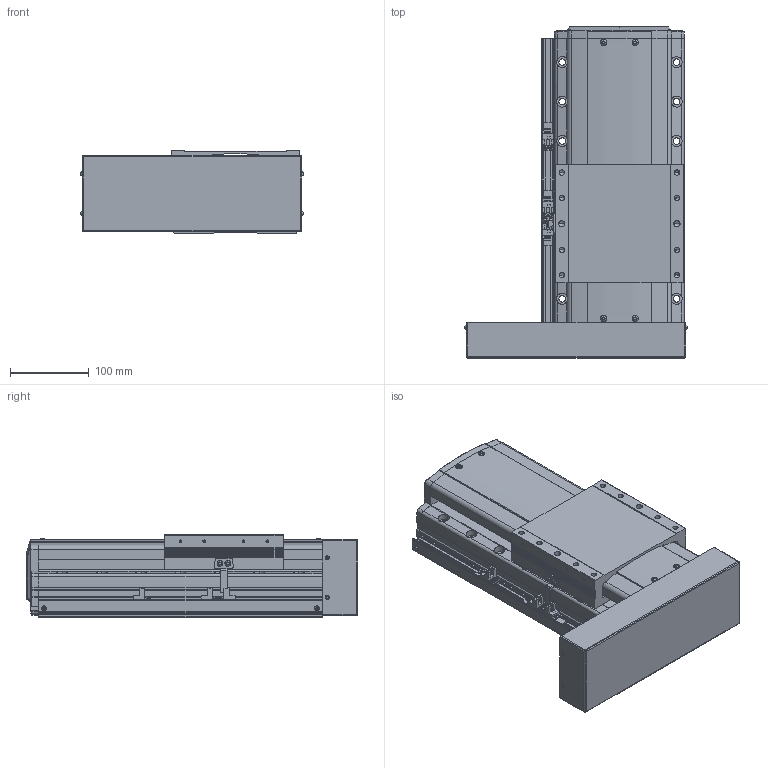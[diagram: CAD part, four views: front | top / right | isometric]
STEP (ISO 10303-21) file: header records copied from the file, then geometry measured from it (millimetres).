
FILE_DESCRIPTION(('STEP AP214'),'1');
FILE_NAME('Z:/Web/3D/PSA165/STP/PSA165-100 (3D)/PSA165ㅁㅁ-100PL+3SL.stp','2014-06-23T06:25:20',(' '),(' '),'Spatial InterOp 3D',' ',' ');
FILE_SCHEMA(('automotive_design'));
Length unit declared in the file: millimetre
Products named in the file (41): 스크루 : Round - M4.0 x 12.0; RRCV-PA160; BASE; 스크루 : Round - M4.0 x 10.0; RN15; Screw 20; SLIDE; FRCV; MTPL; 스크루 : Round - M3.0 x 6.0; M3.0 x 6.0; SRL-16x17-360L; SGD-SAN150; EE-SX674; SBK-SX674-352; BHCS M4.0 x 10.0
Bounding box: 281.93 x 420.8 x 104 mm (x, y, z)
Volume: 6631089.6 mm3; surface area: 586143.9 mm2
Topology: 41 solids, 41 shells, 2396 faces, 6401 edges, 4123 vertices
Faces by surface type: plane 1427, cylinder 675, cone 189, sphere 64, bspline 25, torus 16
Entity records: 97001 total; most frequent: CARTESIAN_POINT 16599, DIRECTION 12759, ORIENTED_EDGE 12566, EDGE_CURVE 6283, LINE 4325, VECTOR 4325, AXIS2_PLACEMENT_3D 4217, VERTEX_POINT 4123
